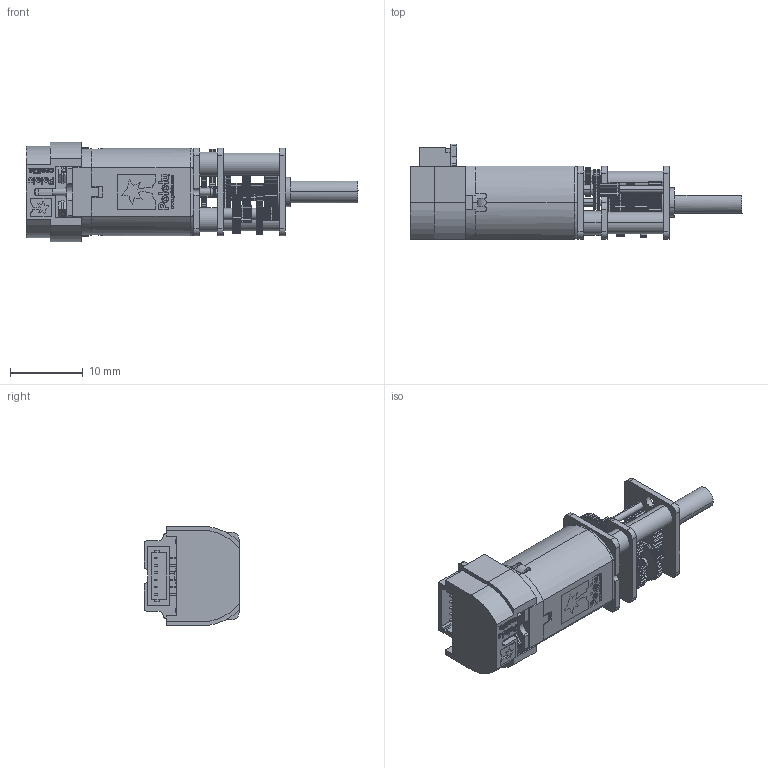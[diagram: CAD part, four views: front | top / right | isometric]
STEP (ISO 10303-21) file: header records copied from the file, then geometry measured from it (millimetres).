
FILE_DESCRIPTION (( 'STEP AP214' ), '1' );
FILE_NAME ('mmgm-1000-cb-enc03c-cas02.STEP', '2024-05-01T00:43:55', ( '' ), ( '' ), 'SwSTEP 2.0', 'SolidWorks 2023', '' );
FILE_SCHEMA (( 'AUTOMOTIVE_DESIGN' ));
Length unit declared in the file: inch
Products named in the file (1): mmgm-1000-cb-enc03c-cas02
Bounding box: 45.5 x 13.1 x 13.6 mm (x, y, z)
Volume: 2869.6 mm3; surface area: 3635.1 mm2
Topology: 1 solids, 3 shells, 3536 faces, 10437 edges, 6986 vertices
Faces by surface type: cylinder 1778, plane 1271, bspline 474, torus 7, cone 6
Entity records: 189406 total; most frequent: CARTESIAN_POINT 60653, ORIENTED_EDGE 20874, DIRECTION 12072, EDGE_CURVE 10437, VERTEX_POINT 6986, B_SPLINE_CURVE_WITH_KNOTS 5915, AXIS2_PLACEMENT_3D 4517, EDGE_LOOP 3685
